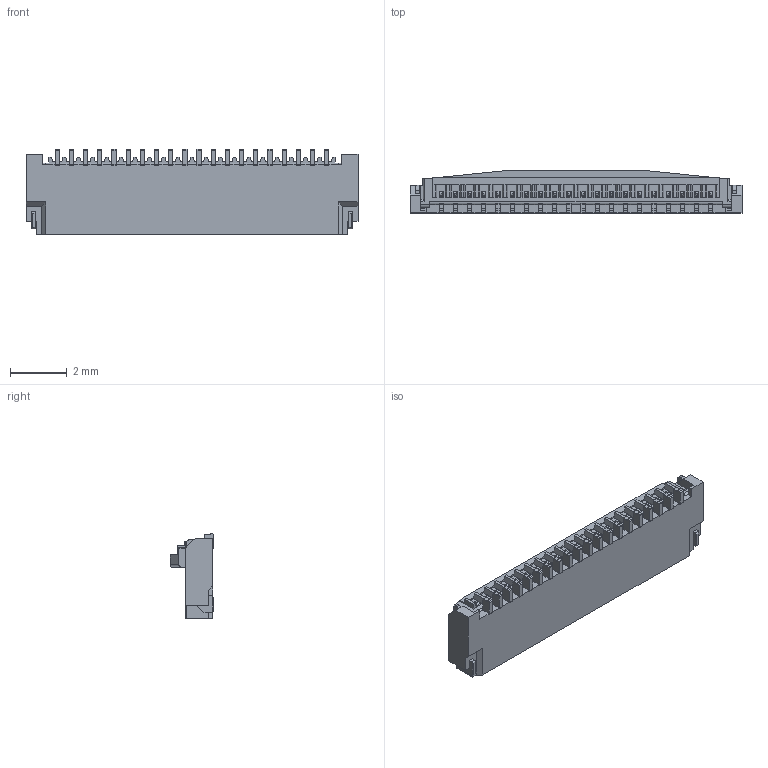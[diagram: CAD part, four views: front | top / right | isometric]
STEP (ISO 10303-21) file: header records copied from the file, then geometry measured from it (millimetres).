
FILE_DESCRIPTION (( 'STEP AP203' ), '1' );
FILE_NAME ('20542-020E-01C ACT OPEN STEP R1 ALL.STEP', '2013-03-07T07:48:46', ( '' ), ( '' ), 'SwSTEP 2.0', 'SolidWorks 2011', '' );
FILE_SCHEMA (( 'CONFIG_CONTROL_DESIGN' ));
Length unit declared in the file: millimetre
Products named in the file (1): 20542-020E-01C ACT OPEN STEP R1 ALL
Bounding box: 11.7 x 1.52 x 3 mm (x, y, z)
Volume: 30.8 mm3; surface area: 113 mm2
Topology: 1 solids, 1 shells, 699 faces, 2105 edges, 1386 vertices
Faces by surface type: plane 525, cylinder 172, sphere 2
Entity records: 23550 total; most frequent: CARTESIAN_POINT 4447, ORIENTED_EDGE 4206, DIRECTION 3757, EDGE_CURVE 2103, VECTOR 1677, LINE 1677, VERTEX_POINT 1386, AXIS2_PLACEMENT_3D 1040
